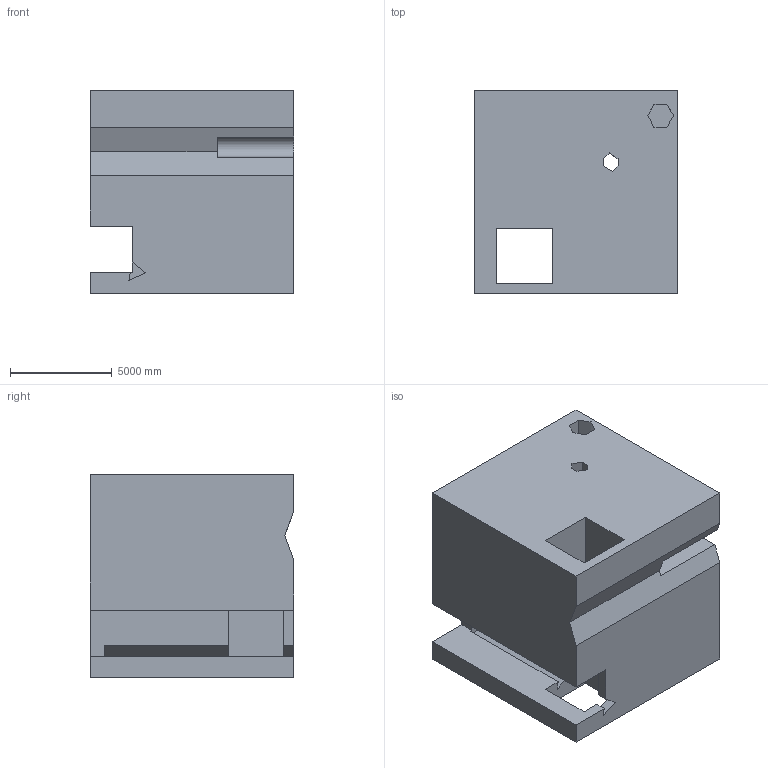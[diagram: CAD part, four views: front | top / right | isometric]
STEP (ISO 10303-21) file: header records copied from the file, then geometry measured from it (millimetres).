
FILE_DESCRIPTION (( 'STEP AP203' ), '1' );
FILE_NAME ('60.STEP', '2022-09-01T11:50:54', ( 'user' ), ( '' ), 'SwSTEP 2.0', 'SolidWorks 2021', '' );
FILE_SCHEMA (( 'CONFIG_CONTROL_DESIGN' ));
Length unit declared in the file: centimetre
Products named in the file (1): 60
Bounding box: 10000 x 10000 x 10000 mm (x, y, z)
Volume: 858179174023.9 mm3; surface area: 776749984.2 mm2
Topology: 1 solids, 1 shells, 43 faces, 126 edges, 84 vertices
Faces by surface type: plane 42, cylinder 1
Entity records: 1491 total; most frequent: CARTESIAN_POINT 254, ORIENTED_EDGE 252, DIRECTION 216, EDGE_CURVE 126, LINE 124, VECTOR 124, VERTEX_POINT 84, EDGE_LOOP 48
